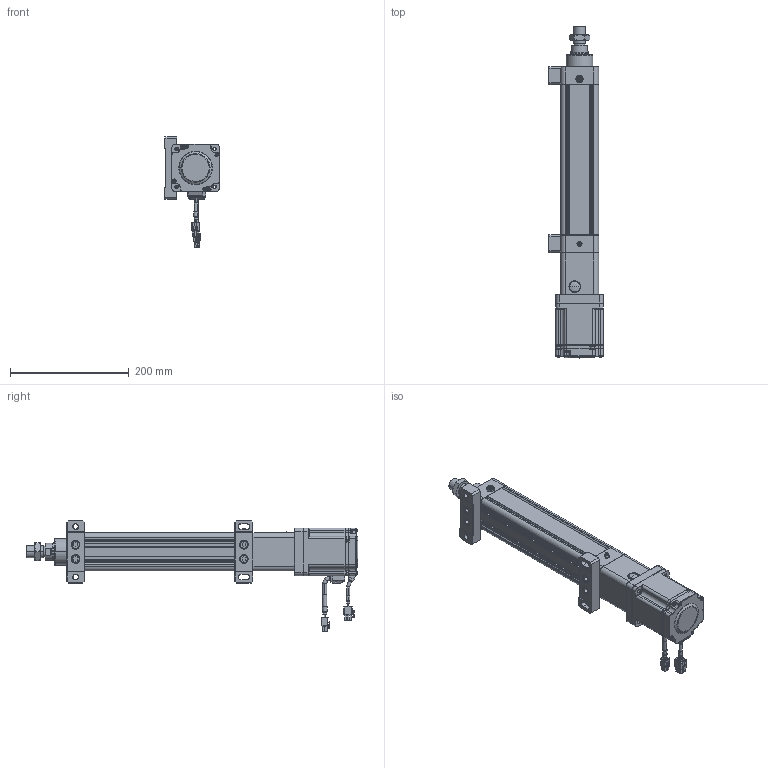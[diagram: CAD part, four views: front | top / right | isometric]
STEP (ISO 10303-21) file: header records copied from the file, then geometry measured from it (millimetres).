
FILE_DESCRIPTION((''),'2;1');
FILE_NAME('HE50-D-100-X1_ASM','2020-05-08T',('ASUS20200'),(''),'CREO PARAMETRIC BY PTC INC, 2014190','CREO PARAMETRIC BY PTC INC, 2014190','');
FILE_SCHEMA(('CONFIG_CONTROL_DESIGN'));
Products named in the file (28): HE50-D-P-001-X1; HE50-D-P-002-X1; HE50-D-P-003-X1; HE50-D-009-X1; HE50-D-010-X1; 6301ZZ; LGLM-M8-22; SKT-16; SLM-01; YZ-M6X1; _MHMF082L1A2; _CABLE_MOTOR_BOTTOM_05; _CABLE_MOTOR_TOP_05; _MOTOR_CONNECTOR_2; _CABLE_BRAKE_BOTTOM_05; _CABLE_BRAKE_TOP_05; _MHMF_CONNECTOR_9_PIN_A6; MHMF082L1A2M2_1_ASM; M6X16; JX6X6X20; JDB303820; HE50-P-015-X1; HE50-P-016-X1; M8X25; HE50-D-P-005-X1; HE50-D-P-004-X1; HE50-D-P-008-X1; HE50-D-100-X1_ASM
Assembly tree (40 placements, depth 3):
  HE50-D-100-X1_ASM
    HE50-D-P-001-X1
    HE50-D-P-002-X1
    HE50-D-P-003-X1
    HE50-D-009-X1
    HE50-D-010-X1
    6301ZZ
    LGLM-M8-22  x8
    SKT-16
    SLM-01
    YZ-M6X1
    MHMF082L1A2M2_1_ASM
      _MHMF082L1A2
      _CABLE_MOTOR_BOTTOM_05
      _CABLE_MOTOR_TOP_05
      _MOTOR_CONNECTOR_2
      _CABLE_BRAKE_BOTTOM_05
      _CABLE_BRAKE_TOP_05
      _MHMF_CONNECTOR_9_PIN_A6
    M6X16  x4
    JX6X6X20
    JDB303820
    HE50-P-015-X1
    HE50-P-016-X1
    M8X25  x4
    HE50-D-P-005-X1
    HE50-D-P-004-X1
    HE50-D-P-008-X1
Bounding box: 92 x 558.4 x 186.15 mm (x, y, z)
Volume: 1595800.1 mm3; surface area: 431947.8 mm2
Topology: 39 solids, 71 shells, 2804 faces, 6799 edges, 4215 vertices
Faces by surface type: plane 1223, cylinder 789, cone 627, torus 118, sphere 44, bspline 3
Entity records: 72716 total; most frequent: CARTESIAN_POINT 13542, DIRECTION 12973, ORIENTED_EDGE 11648, EDGE_CURVE 5883, AXIS2_PLACEMENT_3D 4809, VERTEX_POINT 3674, VECTOR 3355, LINE 3355
